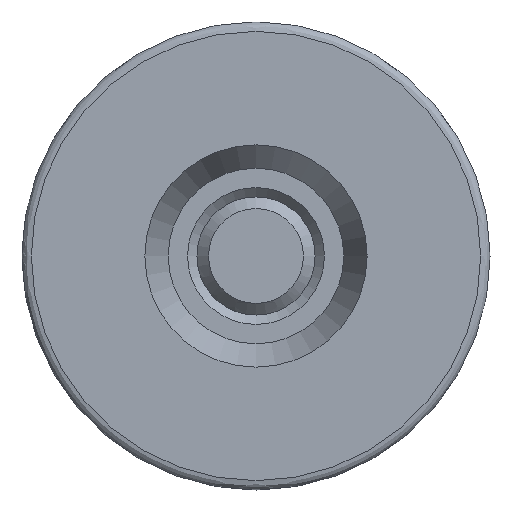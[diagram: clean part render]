
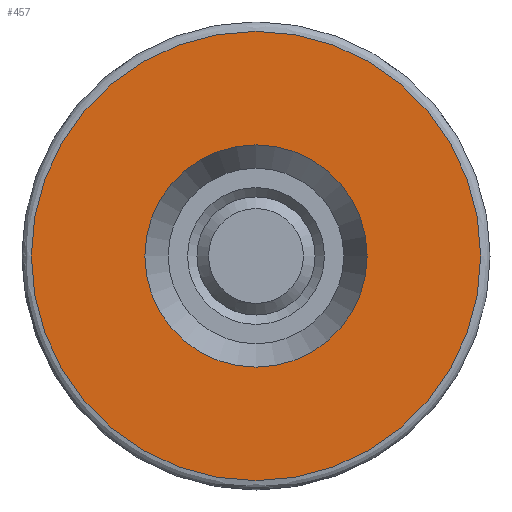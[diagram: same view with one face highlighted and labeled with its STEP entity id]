
A CAD part, front view. The second image highlights one B-rep face of the part: STEP entity #457.
In plain terms, the highlighted planar face has unit normal (0, -1, 0).
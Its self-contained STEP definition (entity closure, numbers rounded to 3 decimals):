
#397=CARTESIAN_POINT('',(1278.411,975.187,0.0));
#398=VERTEX_POINT('',#397);
#406=CARTESIAN_POINT('',(1316.811,975.187,0.0));
#407=VERTEX_POINT('',#406);
#408=CARTESIAN_POINT('',(1297.611,975.187,0.0));
#409=DIRECTION('',(0.0,1.0,0.0));
#410=DIRECTION('',(-1.0,0.0,0.0));
#411=AXIS2_PLACEMENT_3D('',#408,#409,#410);
#412=CIRCLE('',#411,19.2);
#413=EDGE_CURVE('',#398,#407,#412,.T.);
#415=CARTESIAN_POINT('',(1297.611,975.187,0.0));
#416=DIRECTION('',(0.0,1.0,0.0));
#417=DIRECTION('',(-1.0,0.0,0.0));
#418=AXIS2_PLACEMENT_3D('',#415,#416,#417);
#419=CIRCLE('',#418,19.2);
#420=EDGE_CURVE('',#407,#398,#419,.T.);
#428=CARTESIAN_POINT('',(1259.211,975.187,-38.4));
#429=DIRECTION('',(0.0,1.0,0.0));
#430=DIRECTION('',(0.0,0.0,1.0));
#431=AXIS2_PLACEMENT_3D('',#428,#429,#430);
#432=PLANE('',#431);
#433=ORIENTED_EDGE('',*,*,#420,.F.);
#434=ORIENTED_EDGE('',*,*,#413,.F.);
#435=EDGE_LOOP('',(#433,#434));
#436=FACE_OUTER_BOUND('',#435,.T.);
#437=CARTESIAN_POINT('',(1288.111,975.187,0.0));
#438=VERTEX_POINT('',#437);
#439=CARTESIAN_POINT('',(1307.111,975.187,0.0));
#440=VERTEX_POINT('',#439);
#441=CARTESIAN_POINT('',(1297.611,975.187,0.0));
#442=DIRECTION('',(0.0,1.0,0.0));
#443=DIRECTION('',(-1.0,0.0,0.0));
#444=AXIS2_PLACEMENT_3D('',#441,#442,#443);
#445=CIRCLE('',#444,9.5);
#446=EDGE_CURVE('',#438,#440,#445,.T.);
#447=ORIENTED_EDGE('',*,*,#446,.T.);
#448=CARTESIAN_POINT('',(1297.611,975.187,0.0));
#449=DIRECTION('',(0.0,1.0,0.0));
#450=DIRECTION('',(-1.0,0.0,0.0));
#451=AXIS2_PLACEMENT_3D('',#448,#449,#450);
#452=CIRCLE('',#451,9.5);
#453=EDGE_CURVE('',#440,#438,#452,.T.);
#454=ORIENTED_EDGE('',*,*,#453,.T.);
#455=EDGE_LOOP('',(#447,#454));
#456=FACE_BOUND('',#455,.T.);
#457=ADVANCED_FACE('',(#436,#456),#432,.F.);
